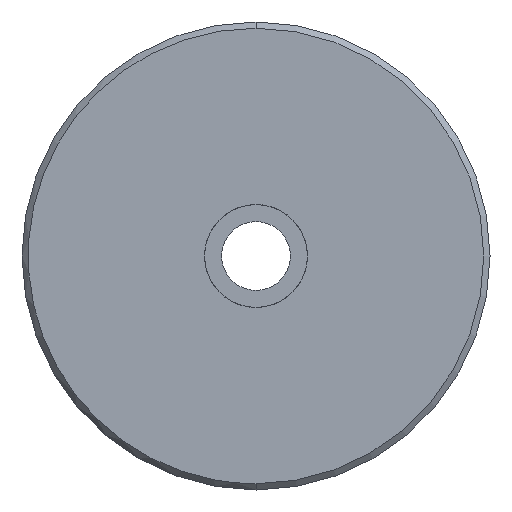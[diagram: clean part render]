
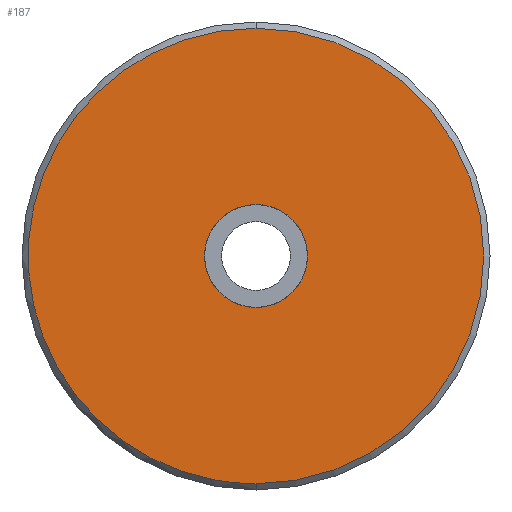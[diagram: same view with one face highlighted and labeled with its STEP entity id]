
A CAD part, front view. The second image highlights one B-rep face of the part: STEP entity #187.
In plain terms, the highlighted planar face has unit normal (0, -1, 0).
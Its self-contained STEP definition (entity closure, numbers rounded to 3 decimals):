
#57=CARTESIAN_POINT('Axis2P3D Location',(0.,0.,0.)) ;
#61=CARTESIAN_POINT('Vertex',(0.,0.,-73.)) ;
#63=CARTESIAN_POINT('Vertex',(0.,0.,73.)) ;
#92=CARTESIAN_POINT('Axis2P3D Location',(0.,0.,0.)) ;
#98=CARTESIAN_POINT('Control Point',(0.,0.,73.)) ;
#99=CARTESIAN_POINT('Control Point',(-6.697,0.,73.)) ;
#100=CARTESIAN_POINT('Control Point',(-13.394,0.,72.232)) ;
#101=CARTESIAN_POINT('Control Point',(-19.974,0.,70.696)) ;
#102=CARTESIAN_POINT('Control Point',(-32.664,0.,66.142)) ;
#103=CARTESIAN_POINT('Control Point',(-43.993,0.,58.834)) ;
#104=CARTESIAN_POINT('Control Point',(-49.212,0.,54.544)) ;
#105=CARTESIAN_POINT('Control Point',(-58.574,0.,44.842)) ;
#106=CARTESIAN_POINT('Control Point',(-65.496,0.,33.273)) ;
#107=CARTESIAN_POINT('Control Point',(-68.276,0.,27.114)) ;
#108=CARTESIAN_POINT('Control Point',(-72.374,0.,14.271)) ;
#109=CARTESIAN_POINT('Control Point',(-73.459,0.,0.832)) ;
#110=CARTESIAN_POINT('Control Point',(-73.224,0.,-5.92)) ;
#111=CARTESIAN_POINT('Control Point',(-71.212,0.,-19.251)) ;
#112=CARTESIAN_POINT('Control Point',(-66.234,0.,-31.78)) ;
#113=CARTESIAN_POINT('Control Point',(-63.033,0.,-37.731)) ;
#114=CARTESIAN_POINT('Control Point',(-55.326,0.,-48.793)) ;
#115=CARTESIAN_POINT('Control Point',(-45.315,0.,-57.822)) ;
#116=CARTESIAN_POINT('Control Point',(-39.81,0.,-61.741)) ;
#117=CARTESIAN_POINT('Control Point',(-28.895,0.,-67.755)) ;
#118=CARTESIAN_POINT('Control Point',(-16.982,0.,-71.34)) ;
#119=CARTESIAN_POINT('Control Point',(-11.369,0.,-72.447)) ;
#120=CARTESIAN_POINT('Control Point',(-5.685,0.,-73.)) ;
#121=CARTESIAN_POINT('Control Point',(0.,0.,-73.)) ;
#128=CARTESIAN_POINT('Control Point',(0.,0.,-16.5)) ;
#129=CARTESIAN_POINT('Control Point',(1.592,0.,-16.5)) ;
#130=CARTESIAN_POINT('Control Point',(3.184,0.,-16.308)) ;
#131=CARTESIAN_POINT('Control Point',(4.745,0.,-15.924)) ;
#132=CARTESIAN_POINT('Control Point',(7.744,0.,-14.787)) ;
#133=CARTESIAN_POINT('Control Point',(10.386,0.,-12.97)) ;
#134=CARTESIAN_POINT('Control Point',(11.591,0.,-11.905)) ;
#135=CARTESIAN_POINT('Control Point',(13.72,0.,-9.507)) ;
#136=CARTESIAN_POINT('Control Point',(15.218,0.,-6.671)) ;
#137=CARTESIAN_POINT('Control Point',(15.791,0.,-5.169)) ;
#138=CARTESIAN_POINT('Control Point',(16.565,0.,-2.057)) ;
#139=CARTESIAN_POINT('Control Point',(16.576,0.,1.15)) ;
#140=CARTESIAN_POINT('Control Point',(16.387,0.,2.747)) ;
#141=CARTESIAN_POINT('Control Point',(15.629,0.,5.863)) ;
#142=CARTESIAN_POINT('Control Point',(14.151,0.,8.709)) ;
#143=CARTESIAN_POINT('Control Point',(13.243,0.,10.036)) ;
#144=CARTESIAN_POINT('Control Point',(11.125,0.,12.444)) ;
#145=CARTESIAN_POINT('Control Point',(8.496,0.,14.28)) ;
#146=CARTESIAN_POINT('Control Point',(7.076,0.,15.034)) ;
#147=CARTESIAN_POINT('Control Point',(4.813,0.,15.904)) ;
#148=CARTESIAN_POINT('Control Point',(2.442,0.,16.349)) ;
#149=CARTESIAN_POINT('Control Point',(1.631,0.,16.45)) ;
#150=CARTESIAN_POINT('Control Point',(0.815,0.,16.5)) ;
#151=CARTESIAN_POINT('Control Point',(0.,0.,16.5)) ;
#152=CARTESIAN_POINT('Vertex',(0.,0.,-16.5)) ;
#154=CARTESIAN_POINT('Vertex',(0.,0.,16.5)) ;
#158=CARTESIAN_POINT('Control Point',(0.,0.,16.5)) ;
#159=CARTESIAN_POINT('Control Point',(-1.592,0.,16.5)) ;
#160=CARTESIAN_POINT('Control Point',(-3.184,0.,16.308)) ;
#161=CARTESIAN_POINT('Control Point',(-4.745,0.,15.924)) ;
#162=CARTESIAN_POINT('Control Point',(-7.744,0.,14.787)) ;
#163=CARTESIAN_POINT('Control Point',(-10.386,0.,12.97)) ;
#164=CARTESIAN_POINT('Control Point',(-11.591,0.,11.905)) ;
#165=CARTESIAN_POINT('Control Point',(-13.72,0.,9.507)) ;
#166=CARTESIAN_POINT('Control Point',(-15.218,0.,6.671)) ;
#167=CARTESIAN_POINT('Control Point',(-15.791,0.,5.169)) ;
#168=CARTESIAN_POINT('Control Point',(-16.565,0.,2.057)) ;
#169=CARTESIAN_POINT('Control Point',(-16.576,0.,-1.15)) ;
#170=CARTESIAN_POINT('Control Point',(-16.387,0.,-2.747)) ;
#171=CARTESIAN_POINT('Control Point',(-15.629,0.,-5.863)) ;
#172=CARTESIAN_POINT('Control Point',(-14.151,0.,-8.709)) ;
#173=CARTESIAN_POINT('Control Point',(-13.243,0.,-10.036)) ;
#174=CARTESIAN_POINT('Control Point',(-11.125,0.,-12.444)) ;
#175=CARTESIAN_POINT('Control Point',(-8.496,0.,-14.28)) ;
#176=CARTESIAN_POINT('Control Point',(-7.076,0.,-15.034)) ;
#177=CARTESIAN_POINT('Control Point',(-4.813,0.,-15.904)) ;
#178=CARTESIAN_POINT('Control Point',(-2.442,0.,-16.349)) ;
#179=CARTESIAN_POINT('Control Point',(-1.631,0.,-16.45)) ;
#180=CARTESIAN_POINT('Control Point',(-0.815,0.,-16.5)) ;
#181=CARTESIAN_POINT('Control Point',(0.,0.,-16.5)) ;
#58=DIRECTION('Axis2P3D Direction',(-0.,1.,0.)) ;
#93=DIRECTION('Axis2P3D Direction',(0.,1.,0.)) ;
#94=DIRECTION('Axis2P3D XDirection',(0.,-0.,1.)) ;
#59=AXIS2_PLACEMENT_3D('Circle Axis2P3D',#57,#58,$) ;
#95=AXIS2_PLACEMENT_3D('Plane Axis2P3D',#92,#93,#94) ;
#124=ORIENTED_EDGE('',*,*,#122,.T.) ;
#125=ORIENTED_EDGE('',*,*,#65,.T.) ;
#184=ORIENTED_EDGE('',*,*,#156,.F.) ;
#185=ORIENTED_EDGE('',*,*,#182,.F.) ;
#186=FACE_BOUND('',#183,.T.) ;
#187=ADVANCED_FACE('Importato1',(#126,#186),#96,.F.) ;
#97=B_SPLINE_CURVE_WITH_KNOTS('',5,(#98,#99,#100,#101,#102,#103,#104,#105,#106,#107,#108,#109,#110,#111,#112,#113,#114,#115,#116,#117,#118,#119,#120,#121),.UNSPECIFIED.,.F.,.U.,(6,3,3,3,3,3,3,6),(0.,47.355,94.711,142.066,189.421,236.776,284.132,324.328),.UNSPECIFIED.) ;
#127=B_SPLINE_CURVE_WITH_KNOTS('',5,(#128,#129,#130,#131,#132,#133,#134,#135,#136,#137,#138,#139,#140,#141,#142,#143,#144,#145,#146,#147,#148,#149,#150,#151),.UNSPECIFIED.,.F.,.U.,(6,3,3,3,3,3,3,6),(0.,11.257,22.514,33.771,45.028,56.284,67.541,73.307),.UNSPECIFIED.) ;
#157=B_SPLINE_CURVE_WITH_KNOTS('',5,(#158,#159,#160,#161,#162,#163,#164,#165,#166,#167,#168,#169,#170,#171,#172,#173,#174,#175,#176,#177,#178,#179,#180,#181),.UNSPECIFIED.,.F.,.U.,(6,3,3,3,3,3,3,6),(0.,11.257,22.514,33.771,45.028,56.284,67.541,73.307),.UNSPECIFIED.) ;
#60=CIRCLE('generated circle',#59,73.) ;
#65=EDGE_CURVE('',#62,#64,#60,.F.) ;
#122=EDGE_CURVE('',#64,#62,#97,.T.) ;
#156=EDGE_CURVE('',#153,#155,#127,.T.) ;
#182=EDGE_CURVE('',#155,#153,#157,.T.) ;
#123=EDGE_LOOP('',(#124,#125)) ;
#183=EDGE_LOOP('',(#184,#185)) ;
#126=FACE_OUTER_BOUND('',#123,.T.) ;
#96=PLANE('Plane',#95) ;
#62=VERTEX_POINT('',#61) ;
#64=VERTEX_POINT('',#63) ;
#153=VERTEX_POINT('',#152) ;
#155=VERTEX_POINT('',#154) ;
